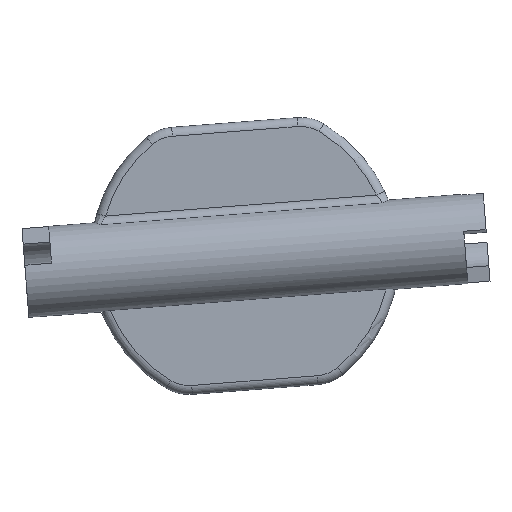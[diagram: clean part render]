
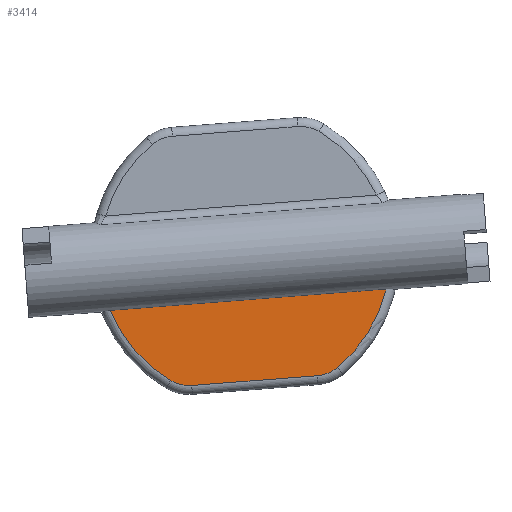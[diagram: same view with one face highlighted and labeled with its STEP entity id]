
A CAD part, front view. The second image highlights one B-rep face of the part: STEP entity #3414.
In plain terms, the highlighted planar face has unit normal (0, -1, 0).
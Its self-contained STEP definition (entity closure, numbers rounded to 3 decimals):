
#1084=CARTESIAN_POINT('',(957.9,-1.,-113.473));
#1085=DIRECTION('',(0.,1.,0.));
#1086=DIRECTION('',(-0.512,0.,-0.859));
#1087=AXIS2_PLACEMENT_3D('',#1084,#1085,#1086);
#1089=DIRECTION('',(-0.997,0.,-0.077));
#1090=VECTOR('',#1089,30.925);
#1091=CARTESIAN_POINT('',(973.695,-1.,-117.163));
#1092=LINE('',#1091,#1090);
#1093=CARTESIAN_POINT('',(957.9,-1.,-113.473));
#1094=DIRECTION('',(0.,1.,0.));
#1095=DIRECTION('',(0.974,0.,-0.227));
#1096=AXIS2_PLACEMENT_3D('',#1093,#1094,#1095);
#1098=CARTESIAN_POINT('',(965.7,-1.,-122.88));
#1099=DIRECTION('',(0.,1.,0.));
#1100=DIRECTION('',(0.638,0.,-0.77));
#1101=AXIS2_PLACEMENT_3D('',#1098,#1099,#1100);
#1103=DIRECTION('',(-0.997,0.,-0.077));
#1104=VECTOR('',#1103,14.1);
#1105=CARTESIAN_POINT('',(966.009,-1.,-126.869));
#1106=LINE('',#1105,#1104);
#1107=CARTESIAN_POINT('',(951.642,-1.,-123.97));
#1108=DIRECTION('',(0.,1.,0.));
#1109=DIRECTION('',(0.077,0.,-0.997));
#1110=AXIS2_PLACEMENT_3D('',#1107,#1108,#1109);
#1701=CARTESIAN_POINT('',(949.594,-1.,-127.405));
#1702=CARTESIAN_POINT('',(942.862,-1.,-119.552));
#1703=VERTEX_POINT('',#1701);
#1704=VERTEX_POINT('',#1702);
#1709=CARTESIAN_POINT('',(951.951,-1.,-127.958));
#1710=VERTEX_POINT('',#1709);
#1711=CARTESIAN_POINT('',(966.009,-1.,-126.869));
#1712=VERTEX_POINT('',#1711);
#1713=CARTESIAN_POINT('',(968.253,-1.,-125.96));
#1714=VERTEX_POINT('',#1713);
#1719=CARTESIAN_POINT('',(973.695,-1.,-117.163));
#1720=VERTEX_POINT('',#1719);
#3395=CARTESIAN_POINT('',(0.,-1.,0.));
#3396=DIRECTION('',(0.,-1.,0.));
#3397=DIRECTION('',(1.,0.,0.));
#3398=AXIS2_PLACEMENT_3D('',#3395,#3396,#3397);
#3399=PLANE('',#3398);
#3401=ORIENTED_EDGE('',*,*,#3400,.T.);
#3403=ORIENTED_EDGE('',*,*,#3402,.F.);
#3405=ORIENTED_EDGE('',*,*,#3404,.T.);
#3407=ORIENTED_EDGE('',*,*,#3406,.T.);
#3409=ORIENTED_EDGE('',*,*,#3408,.T.);
#3411=ORIENTED_EDGE('',*,*,#3410,.T.);
#3412=EDGE_LOOP('',(#3401,#3403,#3405,#3407,#3409,#3411));
#3413=FACE_OUTER_BOUND('',#3412,.F.);
#3414=ADVANCED_FACE('',(#3413),#3399,.T.);
#1088=CIRCLE('',#1087,16.22);
#1097=CIRCLE('',#1096,16.22);
#1102=CIRCLE('',#1101,4.);
#1111=CIRCLE('',#1110,4.);
#3400=EDGE_CURVE('',#1703,#1704,#1088,.T.);
#3402=EDGE_CURVE('',#1720,#1704,#1092,.T.);
#3404=EDGE_CURVE('',#1720,#1714,#1097,.T.);
#3406=EDGE_CURVE('',#1714,#1712,#1102,.T.);
#3408=EDGE_CURVE('',#1712,#1710,#1106,.T.);
#3410=EDGE_CURVE('',#1710,#1703,#1111,.T.);
